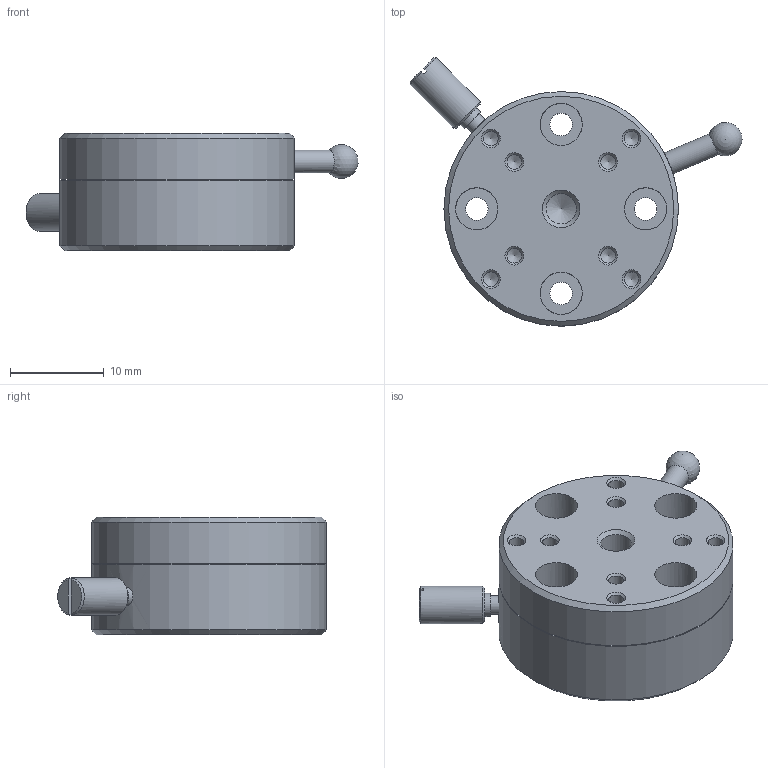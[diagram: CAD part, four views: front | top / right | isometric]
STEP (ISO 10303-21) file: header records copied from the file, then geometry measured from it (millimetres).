
FILE_DESCRIPTION((''),'2;1');
FILE_NAME('C:\Users\Administrator\AppData\Local\Temp\Mastercam 2018\OQVPCB8BMQ\TEMP.stp','2021-04-13T17:56:36',(''),(''),'STEP Write','Mastercam 2018 ... CNC Software, Inc.','');
FILE_SCHEMA(('AUTOMOTIVE_DESIGN'));
Length unit declared in the file: millimetre
Products named in the file (1): None
Bounding box: 35.39 x 28.62 x 12.5 mm (x, y, z)
Volume: 5386.3 mm3; surface area: 4655.3 mm2
Topology: 2 solids, 2 shells, 75 faces, 197 edges, 131 vertices
Faces by surface type: cylinder 33, cone 23, plane 18, sphere 1
Full cylindrical faces by diameter (mm): 1.567 x8, 2 x1, 2.4 x5, 2.5 x1, 3.242 x1, 4 x1, 4.5 x8, 23 x2, 25 x2
Entity records: 2080 total; most frequent: CARTESIAN_POINT 406, DIRECTION 356, ORIENTED_EDGE 224, AXIS2_PLACEMENT_3D 169, EDGE_LOOP 156, EDGE_CURVE 112, FACE_BOUND 110, VERTEX_POINT 98
